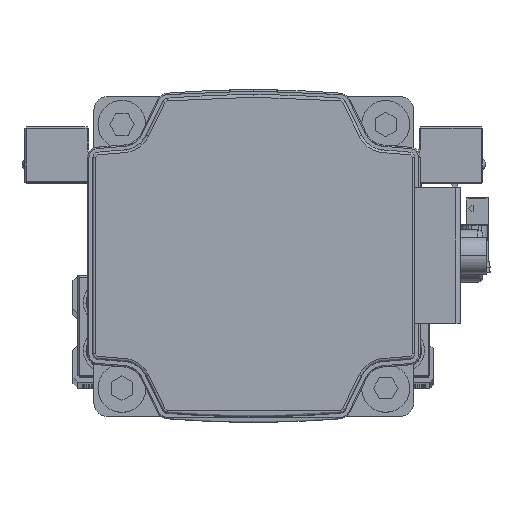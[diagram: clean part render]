
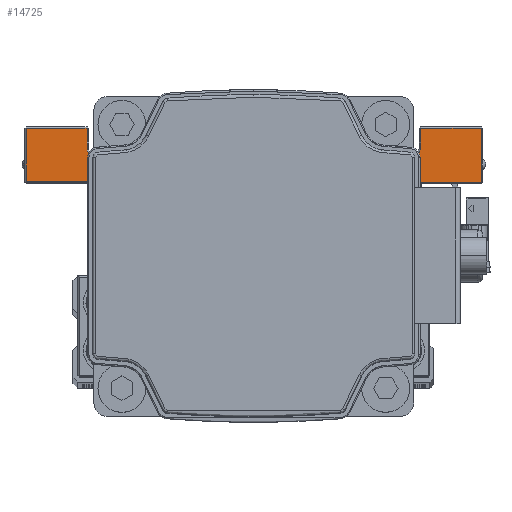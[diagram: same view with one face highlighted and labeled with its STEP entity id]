
A CAD part, top view. The second image highlights one B-rep face of the part: STEP entity #14725.
In plain terms, the highlighted planar face has unit normal (0, 0, 1) as drawn and (1, 0, 0) by its records, which use the part's own axes.
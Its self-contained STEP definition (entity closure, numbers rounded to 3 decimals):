
#665 = CARTESIAN_POINT ( 'NONE',  ( 45., 12.7, 30. ) ) ;
#1703 = DIRECTION ( 'NONE',  ( 0., 0., -1. ) ) ;
#2345 = VERTEX_POINT ( 'NONE', #19583 ) ;
#2687 = DIRECTION ( 'NONE',  ( 0., -1., 0. ) ) ;
#3188 = DIRECTION ( 'NONE',  ( 0., 0., -1. ) ) ;
#3261 = ORIENTED_EDGE ( 'NONE', *, *, #9473, .T. ) ;
#3406 = ORIENTED_EDGE ( 'NONE', *, *, #32663, .T. ) ;
#4313 = CARTESIAN_POINT ( 'NONE',  ( 45., 14., -31.3 ) ) ;
#4747 = CARTESIAN_POINT ( 'NONE',  ( 45., 7.5, 19.7 ) ) ;
#4889 = VECTOR ( 'NONE', #2687, 1000. ) ;
#5141 = DIRECTION ( 'NONE',  ( 0., 0., 1. ) ) ;
#5358 = VECTOR ( 'NONE', #5141, 1000. ) ;
#5511 = CARTESIAN_POINT ( 'NONE',  ( 45., 14., 30. ) ) ;
#5763 = LINE ( 'NONE', #18693, #17703 ) ;
#5789 = DIRECTION ( 'NONE',  ( -1., 0., 0. ) ) ;
#5911 = VERTEX_POINT ( 'NONE', #39135 ) ;
#6016 = ORIENTED_EDGE ( 'NONE', *, *, #24355, .T. ) ;
#6162 = VERTEX_POINT ( 'NONE', #31737 ) ;
#6699 = CIRCLE ( 'NONE', #12121, 1.3 ) ;
#6889 = VECTOR ( 'NONE', #17668, 1000. ) ;
#6898 = EDGE_CURVE ( 'NONE', #40807, #5911, #17787, .T. ) ;
#7172 = VERTEX_POINT ( 'NONE', #10112 ) ;
#7682 = LINE ( 'NONE', #20599, #21806 ) ;
#7710 = VERTEX_POINT ( 'NONE', #26631 ) ;
#8358 = CARTESIAN_POINT ( 'NONE',  ( 45., 12.7, -30. ) ) ;
#8360 = CARTESIAN_POINT ( 'NONE',  ( 45., 7.5, -19.7 ) ) ;
#8501 = CARTESIAN_POINT ( 'NONE',  ( 45., 17.7, -31.3 ) ) ;
#8531 = ORIENTED_EDGE ( 'NONE', *, *, #29841, .T. ) ;
#8968 = FACE_OUTER_BOUND ( 'NONE', #11631, .T. ) ;
#9328 = DIRECTION ( 'NONE',  ( 0., 1., 0. ) ) ;
#9473 = EDGE_CURVE ( 'NONE', #37889, #10400, #21239, .T. ) ;
#9747 = CARTESIAN_POINT ( 'NONE',  ( 45., 17.7, -42.7 ) ) ;
#9753 = DIRECTION ( 'NONE',  ( 0., 0., -1. ) ) ;
#9834 = VERTEX_POINT ( 'NONE', #36507 ) ;
#10112 = CARTESIAN_POINT ( 'NONE',  ( 45., 12.7, 30. ) ) ;
#10400 = VERTEX_POINT ( 'NONE', #8501 ) ;
#10625 = CARTESIAN_POINT ( 'NONE',  ( 45., 17.7, -20. ) ) ;
#11220 = VERTEX_POINT ( 'NONE', #8358 ) ;
#11631 = EDGE_LOOP ( 'NONE', ( #39991, #3406, #28815, #3261, #24735, #15435, #8531, #6016, #18695, #40792, #27210, #37012, #35217, #32272 ) ) ;
#11744 = DIRECTION ( 'NONE',  ( 0., 0., 1. ) ) ;
#12079 = CARTESIAN_POINT ( 'NONE',  ( 45., -8.2, -19.7 ) ) ;
#12114 = VECTOR ( 'NONE', #9753, 1000. ) ;
#12121 = AXIS2_PLACEMENT_3D ( 'NONE', #5511, #18450, #31421 ) ;
#13580 = DIRECTION ( 'NONE',  ( 0., 0., 1. ) ) ;
#14065 = VECTOR ( 'NONE', #23544, 1000. ) ;
#14725 = ADVANCED_FACE ( 'NONE', ( #8968 ), #21897, .F. ) ;
#15050 = VECTOR ( 'NONE', #13580, 1000. ) ;
#15435 = ORIENTED_EDGE ( 'NONE', *, *, #17710, .T. ) ;
#16505 = EDGE_CURVE ( 'NONE', #6162, #30076, #25869, .T. ) ;
#17580 = VERTEX_POINT ( 'NONE', #26830 ) ;
#17668 = DIRECTION ( 'NONE',  ( 0., -1., 0. ) ) ;
#17703 = VECTOR ( 'NONE', #31652, 1000. ) ;
#17710 = EDGE_CURVE ( 'NONE', #18377, #11220, #40941, .T. ) ;
#17787 = LINE ( 'NONE', #30748, #37247 ) ;
#18377 = VERTEX_POINT ( 'NONE', #4313 ) ;
#18450 = DIRECTION ( 'NONE',  ( -1., 0., 0. ) ) ;
#18481 = AXIS2_PLACEMENT_3D ( 'NONE', #34883, #5789, #18716 ) ;
#18634 = EDGE_CURVE ( 'NONE', #17580, #40807, #5763, .T. ) ;
#18693 = CARTESIAN_POINT ( 'NONE',  ( 45., 7.5, 42.7 ) ) ;
#18695 = ORIENTED_EDGE ( 'NONE', *, *, #39648, .T. ) ;
#18716 = DIRECTION ( 'NONE',  ( 0., 0., 1. ) ) ;
#18785 = LINE ( 'NONE', #31749, #4889 ) ;
#18997 = EDGE_CURVE ( 'NONE', #10400, #18377, #18785, .T. ) ;
#19114 = VECTOR ( 'NONE', #9328, 1000. ) ;
#19291 = LINE ( 'NONE', #32263, #38296 ) ;
#19583 = CARTESIAN_POINT ( 'NONE',  ( 45., 7.5, -19.7 ) ) ;
#20047 = VERTEX_POINT ( 'NONE', #32919 ) ;
#20599 = CARTESIAN_POINT ( 'NONE',  ( 45., 7.5, -42.7 ) ) ;
#21239 = LINE ( 'NONE', #34216, #5358 ) ;
#21277 = DIRECTION ( 'NONE',  ( 0., 1., 0. ) ) ;
#21806 = VECTOR ( 'NONE', #33580, 1000. ) ;
#21897 = PLANE ( 'NONE',  #18481 ) ;
#22606 = AXIS2_PLACEMENT_3D ( 'NONE', #27859, #40842, #11744 ) ;
#23042 = EDGE_CURVE ( 'NONE', #7710, #17580, #39728, .T. ) ;
#23544 = DIRECTION ( 'NONE',  ( 0., 0., 1. ) ) ;
#24355 = EDGE_CURVE ( 'NONE', #7172, #20047, #6699, .T. ) ;
#24735 = ORIENTED_EDGE ( 'NONE', *, *, #18997, .T. ) ;
#25465 = LINE ( 'NONE', #38450, #19114 ) ;
#25869 = LINE ( 'NONE', #38869, #12114 ) ;
#26631 = CARTESIAN_POINT ( 'NONE',  ( 45., 17.7, 31.3 ) ) ;
#26830 = CARTESIAN_POINT ( 'NONE',  ( 45., 17.7, 42.7 ) ) ;
#27210 = ORIENTED_EDGE ( 'NONE', *, *, #18634, .T. ) ;
#27859 = CARTESIAN_POINT ( 'NONE',  ( 45., 14., -30. ) ) ;
#28072 = EDGE_CURVE ( 'NONE', #30076, #2345, #37456, .T. ) ;
#28815 = ORIENTED_EDGE ( 'NONE', *, *, #39418, .T. ) ;
#29701 = LINE ( 'NONE', #665, #15050 ) ;
#29841 = EDGE_CURVE ( 'NONE', #11220, #7172, #29701, .T. ) ;
#30076 = VERTEX_POINT ( 'NONE', #12079 ) ;
#30748 = CARTESIAN_POINT ( 'NONE',  ( 45., 7.8, 20. ) ) ;
#31421 = DIRECTION ( 'NONE',  ( 0., 0., 1. ) ) ;
#31647 = CARTESIAN_POINT ( 'NONE',  ( 45., 7.8, 42.7 ) ) ;
#31652 = DIRECTION ( 'NONE',  ( 0., -1., 0. ) ) ;
#31737 = CARTESIAN_POINT ( 'NONE',  ( 45., -8.2, 19.7 ) ) ;
#31749 = CARTESIAN_POINT ( 'NONE',  ( 45., 7.5, -31.3 ) ) ;
#32263 = CARTESIAN_POINT ( 'NONE',  ( 45., 7.5, 43. ) ) ;
#32272 = ORIENTED_EDGE ( 'NONE', *, *, #16505, .T. ) ;
#32663 = EDGE_CURVE ( 'NONE', #2345, #9834, #19291, .T. ) ;
#32919 = CARTESIAN_POINT ( 'NONE',  ( 45., 14., 31.3 ) ) ;
#33580 = DIRECTION ( 'NONE',  ( 0., 1., 0. ) ) ;
#33819 = LINE ( 'NONE', #4747, #6889 ) ;
#34216 = CARTESIAN_POINT ( 'NONE',  ( 45., 17.7, -20. ) ) ;
#34883 = CARTESIAN_POINT ( 'NONE',  ( 45., 7.5, -20. ) ) ;
#35217 = ORIENTED_EDGE ( 'NONE', *, *, #39031, .T. ) ;
#36507 = CARTESIAN_POINT ( 'NONE',  ( 45., 7.5, -42.7 ) ) ;
#37012 = ORIENTED_EDGE ( 'NONE', *, *, #6898, .T. ) ;
#37247 = VECTOR ( 'NONE', #1703, 1000. ) ;
#37456 = LINE ( 'NONE', #8360, #39597 ) ;
#37889 = VERTEX_POINT ( 'NONE', #9747 ) ;
#38296 = VECTOR ( 'NONE', #3188, 1000. ) ;
#38450 = CARTESIAN_POINT ( 'NONE',  ( 45., 7.5, 31.3 ) ) ;
#38869 = CARTESIAN_POINT ( 'NONE',  ( 45., -8.2, -20. ) ) ;
#39031 = EDGE_CURVE ( 'NONE', #5911, #6162, #33819, .T. ) ;
#39135 = CARTESIAN_POINT ( 'NONE',  ( 45., 7.8, 19.7 ) ) ;
#39418 = EDGE_CURVE ( 'NONE', #9834, #37889, #7682, .T. ) ;
#39597 = VECTOR ( 'NONE', #21277, 1000. ) ;
#39648 = EDGE_CURVE ( 'NONE', #20047, #7710, #25465, .T. ) ;
#39728 = LINE ( 'NONE', #10625, #14065 ) ;
#39991 = ORIENTED_EDGE ( 'NONE', *, *, #28072, .T. ) ;
#40792 = ORIENTED_EDGE ( 'NONE', *, *, #23042, .T. ) ;
#40807 = VERTEX_POINT ( 'NONE', #31647 ) ;
#40842 = DIRECTION ( 'NONE',  ( -1., 0., 0. ) ) ;
#40941 = CIRCLE ( 'NONE', #22606, 1.3 ) ;
